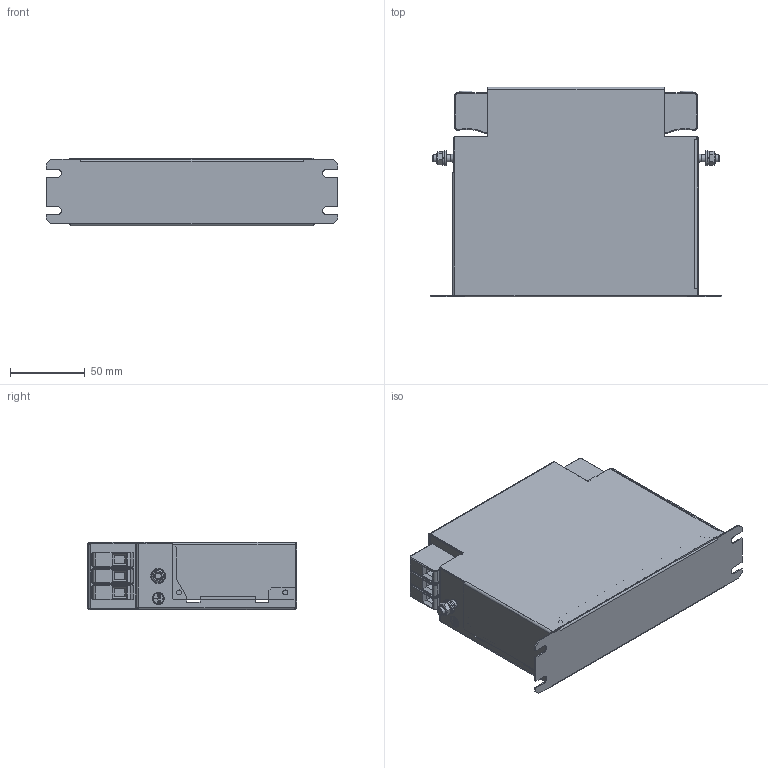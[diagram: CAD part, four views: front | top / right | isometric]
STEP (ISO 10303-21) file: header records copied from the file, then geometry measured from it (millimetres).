
FILE_DESCRIPTION(/* description */ ('raw material description'),/* implementation_level */ '2;1');
FILE_NAME(/* name */ 'C:\Users\Oliver.Volic\OneDrive - Schaffner EMV AG\Projekte\STEP\Wanda\FN3288-16-44.stp',/* time_stamp */ '2018-06-27T12:38:31+02:00',/* author */ ('Oliver.Volic'),/* organization */ ('Schaffner EMV AG'),/* preprocessor_version */ 'ST-DEVELOPER v16.5',/* originating_system */ 'Autodesk Inventor 2017',/* authorisation */ '');
FILE_SCHEMA (('AUTOMOTIVE_DESIGN { 1 0 10303 214 3 1 1 }'));
Length unit declared in the file: millimetre
Products named in the file (1): FN3288-16-44
Bounding box: 195 x 140.1 x 45 mm (x, y, z)
Volume: 101203.7 mm3; surface area: 163731 mm2
Topology: 1 solids, 2 shells, 1123 faces, 2827 edges, 1737 vertices
Faces by surface type: plane 698, cylinder 298, torus 60, sphere 36, bspline 17, cone 14
Full cylindrical faces by diameter (mm): 3.3 x13, 4.5 x6, 5 x4, 5.3 x2, 6.206 x2, 7 x2, 8 x2, 8.5 x6, 10 x2
Entity records: 33899 total; most frequent: CARTESIAN_POINT 6052, DIRECTION 5586, ORIENTED_EDGE 5388, EDGE_CURVE 2694, LINE 1902, VECTOR 1902, AXIS2_PLACEMENT_3D 1842, VERTEX_POINT 1717
